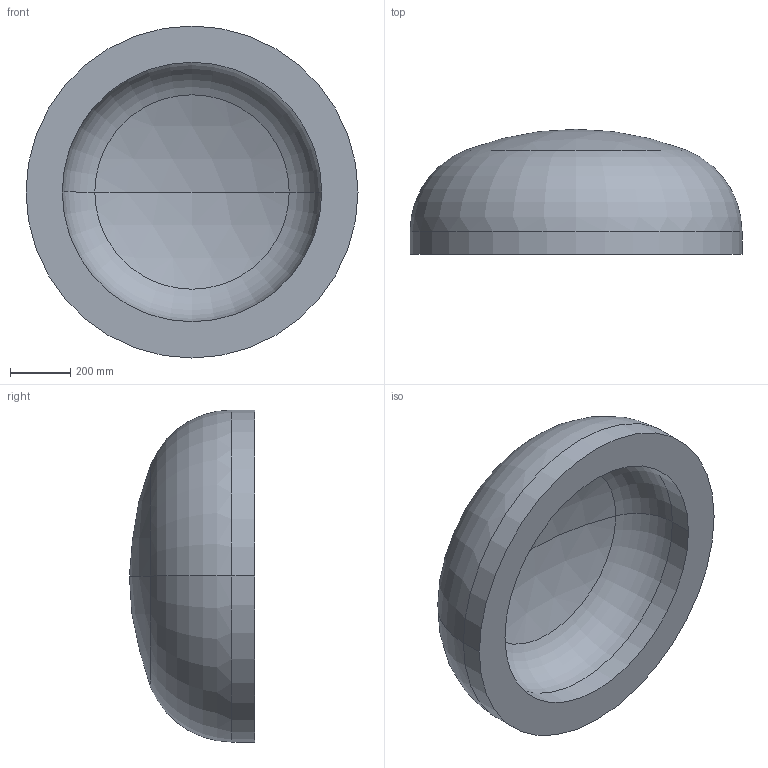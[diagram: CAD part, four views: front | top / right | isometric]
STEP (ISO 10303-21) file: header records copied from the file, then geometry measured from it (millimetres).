
FILE_DESCRIPTION (( 'STEP AP203' ), '1' );
FILE_NAME ('DIN 28013 Korbbogenform_-_Boden DIN 28013 - 1100 x 75 - I - s=120.step', '2016-07-01T09:18:34', ( '' ), ( '' ), 'SwSTEP 2.0', 'SolidWorks 2013', '' );
FILE_SCHEMA (( 'CONFIG_CONTROL_DESIGN' ));
Length unit declared in the file: millimetre
Products named in the file (1): DIN 28013 Korbbogenform_-_Boden DIN 28013 - 1100 x 75 - I - s=120
Bounding box: 1100 x 414.32 x 1100 mm (x, y, z)
Volume: 165925940.6 mm3; surface area: 3165042.5 mm2
Topology: 1 solids, 1 shells, 13 faces, 24 edges, 14 vertices
Faces by surface type: torus 4, cylinder 4, sphere 4, plane 1
Entity records: 407 total; most frequent: DIRECTION 72, CARTESIAN_POINT 52, ORIENTED_EDGE 48, AXIS2_PLACEMENT_3D 34, EDGE_CURVE 24, CIRCLE 20, VERTEX_POINT 14, EDGE_LOOP 14
